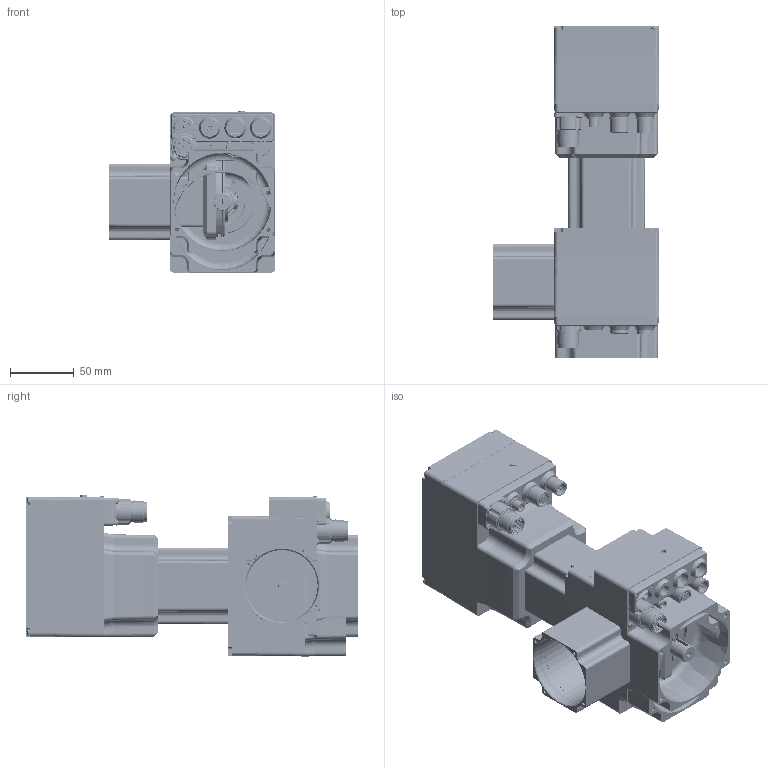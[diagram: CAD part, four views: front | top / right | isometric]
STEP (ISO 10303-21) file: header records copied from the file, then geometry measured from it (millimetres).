
FILE_DESCRIPTION( ( 'Unknown' ), '1' );
FILE_NAME( 'C:/Users/dotti/Desktop/Q0A176/Q0A176_1,3.stp', 'Unknown', ( 'Unknown' ), ( 'Unknown' ), 'PSStep 14.0', 'Unknown', ' ' );
FILE_SCHEMA( ( 'AUTOMOTIVE_DESIGN { 1 0 10303 214 1 1 1 1 }' ) );
Length unit declared in the file: millimetre
Products named in the file (45): Assem1; T00273; 005117000974; N54236; CN M23 PAN-POT BEGA 906 4+5p; VECST-8112 M  2,5 x 12; 005117000476; G00030; Anello-elastico-chiuso  32; A-Ela  15; Vite a brugola testa cil 8,8 -  M  3 x 18; Vite a brugola testa cil 8,8 -  M  3 x 18-oa0; Vite a brugola testa cil 8,8 -  M  3 x 18-oa1; Vite a brugola testa cil 8,8 -  M  3 x 18-oa2; CUSC_15_32_9_6002_ZZ; CUSC_10_26_8_6000_ZZ; Vite a brugola testa cil 8,8 -  M  3 x 40; N45018; Vite a brugola testa cil 8,8 -  M  3 x 10; Anello OR 1,78 D47,37-2187-oa3; Anello OR 1,78 D47,37-2187-oa4; Anello OR 1,78 D72,75-2287-oa5; 005007000200; anello di rasamento 19_26_0,3; N35217; LI-PIA   5x5 x 25; Anello OR 1,78 D25,12-2100-oa6; VECST-8112 M  3 x 30; 003016000054; 003251021030; N09047; 003003007220; N54239
Bounding box: 130.75 x 259.88 x 126.21 mm (x, y, z)
Volume: 873064.5 mm3; surface area: 496234.5 mm2
Topology: 108 solids, 112 shells, 7615 faces, 20651 edges, 13519 vertices
Faces by surface type: plane 4139, cylinder 2585, bspline 319, cone 318, torus 205, sphere 49
Full cylindrical faces by diameter (mm): 1 x39, 1.5 x42, 1.7 x34, 2.4 x24, 2.459 x58, 2.5 x17, 2.7 x12, 3 x23, 3.242 x2, 3.5 x50, 4 x5, 4.2 x4, 5 x11, 5.5 x20, 6 x28, 8 x3, 8.5 x9, 8.75 x3, 9 x6, 9.99 x2, 10 x7, 11 x15, 11.9 x6, 12 x9, 14 x8, 14.3 x2, 14.4 x3, 14.5 x3, 15 x6, 15.12 x8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
Entity records: 106776 total; most frequent: CARTESIAN_POINT 28291, ORIENTED_EDGE 13714, DIRECTION 13519, EDGE_CURVE 6857, AXIS2_PLACEMENT_3D 4857, VERTEX_POINT 4692, LINE 3805, VECTOR 3805
